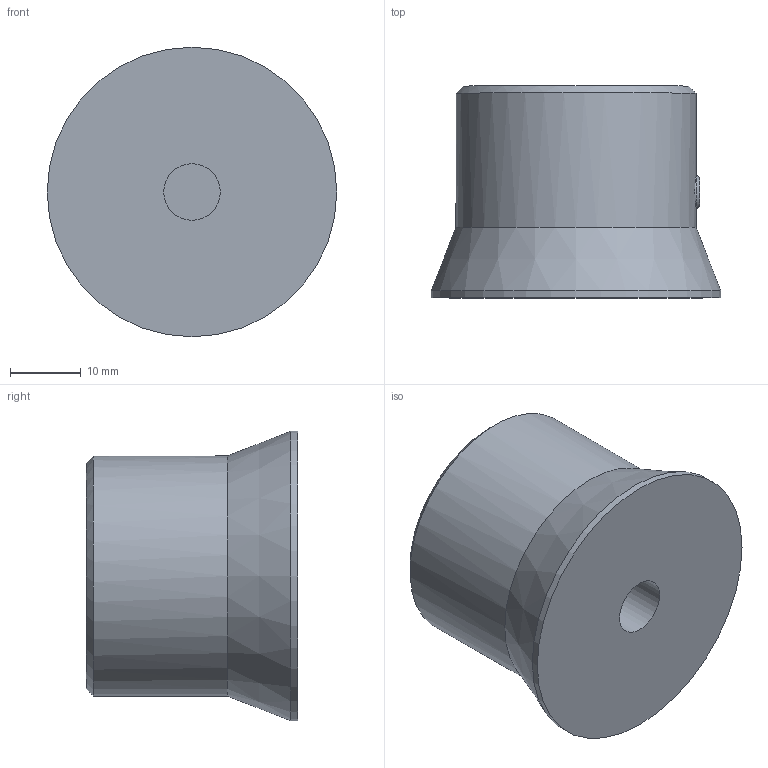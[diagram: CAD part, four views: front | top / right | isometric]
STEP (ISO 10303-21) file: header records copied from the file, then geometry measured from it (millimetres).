
FILE_DESCRIPTION( ( 'STEP AP203' ), '1' );
FILE_NAME( 'C:/Temp/Ganter_Step_05_03_2020/data/1_4/gn_726_2/gn_726_2_s/gn_726_2_s_1/Control knob GN 726.2-34-B8-S-1.stp', '2020-03-05T10:50:06', ( 'License CC BY-ND 4.0' ), ( 'CADENAS' ), ' ', 'PARTsolutions', ' ' );
FILE_SCHEMA( ( 'CONFIG_CONTROL_DESIGN' ) );
Length unit declared in the file: millimetre
Products named in the file (1): _Control knob GN 726.2-34-B8-S-1
Bounding box: 41 x 30 x 41 mm (x, y, z)
Volume: 27794.9 mm3; surface area: 6281.6 mm2
Topology: 1 solids, 1 shells, 122 faces, 345 edges, 228 vertices
Faces by surface type: cylinder 81, plane 37, cone 4
Full cylindrical faces by diameter (mm): 8 x1, 34 x1, 41 x1
Entity records: 4338 total; most frequent: CARTESIAN_POINT 1263, ORIENTED_EDGE 674, DIRECTION 581, EDGE_CURVE 337, VERTEX_POINT 227, AXIS2_PLACEMENT_3D 218, LINE 145, VECTOR 145
